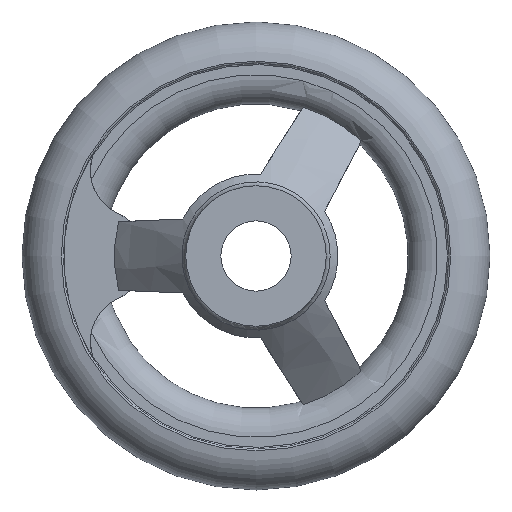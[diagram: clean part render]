
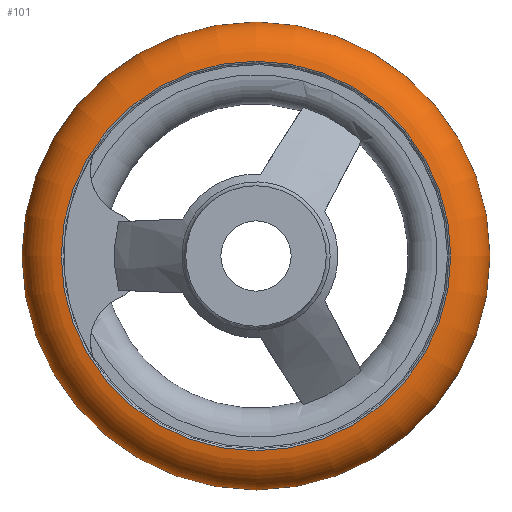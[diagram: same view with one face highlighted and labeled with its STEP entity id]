
A CAD part, left-side view. The second image highlights one B-rep face of the part: STEP entity #101.
In plain terms, the highlighted toroidal (fillet/blend) face has major radius 32.994 mm and minor radius 7.006 mm.
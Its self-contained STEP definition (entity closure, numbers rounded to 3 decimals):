
#101 = ADVANCED_FACE( '', ( #176, #177, #178 ), #179, .T. );
#176 = FACE_BOUND( '', #265, .T. );
#177 = FACE_OUTER_BOUND( '', #266, .T. );
#178 = FACE_OUTER_BOUND( '', #267, .T. );
#179 = TOROIDAL_SURFACE( '', #268, 32.994, 7.006 );
#265 = VERTEX_LOOP( '', #498 );
#266 = EDGE_LOOP( '', ( #499 ) );
#267 = EDGE_LOOP( '', ( #500 ) );
#268 = AXIS2_PLACEMENT_3D( '', #501, #502, #503 );
#498 = VERTEX_POINT( '', #636 );
#499 = ORIENTED_EDGE( '', *, *, #637, .T. );
#500 = ORIENTED_EDGE( '', *, *, #631, .F. );
#501 = CARTESIAN_POINT( '', ( 22., 0., 0. ) );
#502 = DIRECTION( '', ( -1., 0., 0. ) );
#503 = DIRECTION( '', ( 0., -1., 0. ) );
#631 = EDGE_CURVE( '', #769, #769, #770, .T. );
#636 = CARTESIAN_POINT( '', ( 22., -40., 0. ) );
#637 = EDGE_CURVE( '', #776, #776, #777, .T. );
#769 = VERTEX_POINT( '', #1198 );
#770 = CIRCLE( '', #1199, 33.292 );
#776 = VERTEX_POINT( '', #1220 );
#777 = CIRCLE( '', #1221, 33.292 );
#1198 = CARTESIAN_POINT( '', ( 15., -33.292, 0. ) );
#1199 = AXIS2_PLACEMENT_3D( '', #1350, #1351, #1352 );
#1220 = CARTESIAN_POINT( '', ( 29., -33.292, 0. ) );
#1221 = AXIS2_PLACEMENT_3D( '', #1358, #1359, #1360 );
#1350 = CARTESIAN_POINT( '', ( 15., 0., 0. ) );
#1351 = DIRECTION( '', ( -1., 0., 0. ) );
#1352 = DIRECTION( '', ( 0., -1., 0. ) );
#1358 = CARTESIAN_POINT( '', ( 29., 0., 0. ) );
#1359 = DIRECTION( '', ( -1., 0., 0. ) );
#1360 = DIRECTION( '', ( 0., -1., 0. ) );
